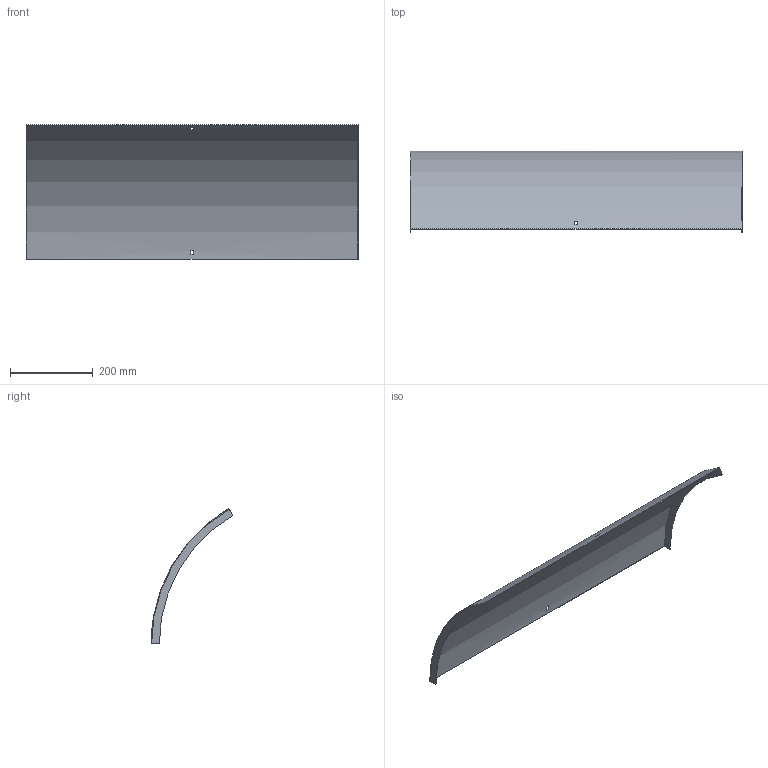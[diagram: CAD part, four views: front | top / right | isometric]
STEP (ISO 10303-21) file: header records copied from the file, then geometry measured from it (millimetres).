
FILE_DESCRIPTION (( 'STEP AP214' ), '1' );
FILE_NAME ('B2_41N3C800.step', '2025-02-21T10:41:24', ( '' ), ( '' ), 'SwSTEP 2.0', 'SolidWorks 2023', '' );
FILE_SCHEMA (( 'AUTOMOTIVE_DESIGN' ));
Length unit declared in the file: millimetre
Products named in the file (1): B2_41N3C800
Bounding box: 803 x 198.25 x 326.06 mm (x, y, z)
Volume: 495033.6 mm3; surface area: 663780.2 mm2
Topology: 1 solids, 1 shells, 18 faces, 48 edges, 32 vertices
Faces by surface type: plane 14, cylinder 4
Entity records: 599 total; most frequent: DIRECTION 102, CARTESIAN_POINT 99, ORIENTED_EDGE 96, EDGE_CURVE 48, AXIS2_PLACEMENT_3D 35, VECTOR 32, VERTEX_POINT 32, LINE 32
